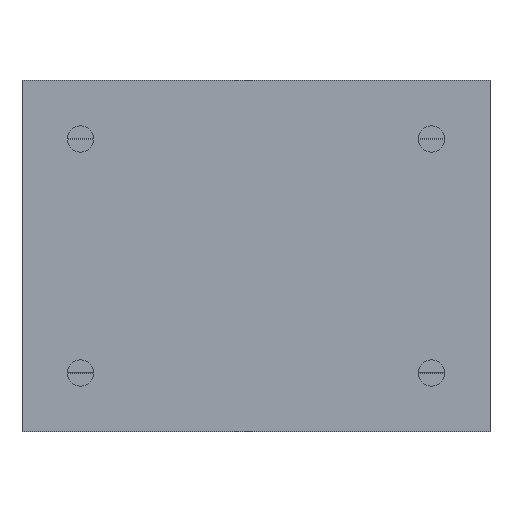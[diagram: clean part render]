
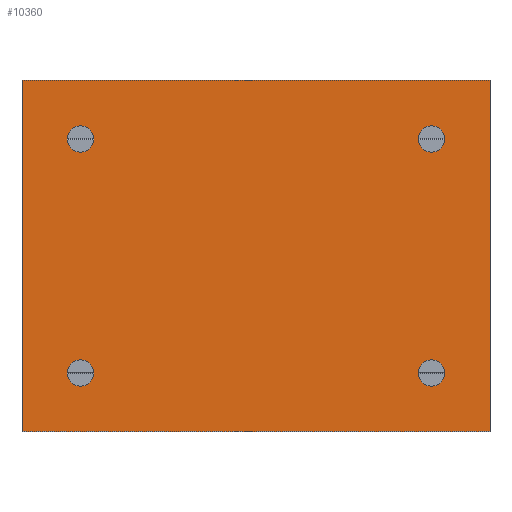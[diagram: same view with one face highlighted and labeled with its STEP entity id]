
A CAD part, front view. The second image highlights one B-rep face of the part: STEP entity #10360.
In plain terms, the highlighted planar face has unit normal (0, -1, 0).
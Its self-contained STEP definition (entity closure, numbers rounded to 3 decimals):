
#360=CIRCLE('',#10966,2.25);
#361=CIRCLE('',#10967,2.25);
#362=CIRCLE('',#10968,2.25);
#363=CIRCLE('',#10969,2.25);
#1064=ORIENTED_EDGE('',*,*,#4265,.T.);
#1065=ORIENTED_EDGE('',*,*,#4266,.F.);
#1066=ORIENTED_EDGE('',*,*,#4267,.F.);
#1067=ORIENTED_EDGE('',*,*,#4268,.F.);
#1068=ORIENTED_EDGE('',*,*,#4218,.T.);
#1069=ORIENTED_EDGE('',*,*,#4269,.F.);
#1070=ORIENTED_EDGE('',*,*,#4270,.F.);
#1071=ORIENTED_EDGE('',*,*,#4263,.T.);
#4218=EDGE_CURVE('',#5825,#5824,#6900,.T.);
#4263=EDGE_CURVE('',#5860,#5825,#6943,.T.);
#4265=EDGE_CURVE('',#5861,#5861,#360,.T.);
#4266=EDGE_CURVE('',#5862,#5862,#361,.T.);
#4267=EDGE_CURVE('',#5863,#5863,#362,.T.);
#4268=EDGE_CURVE('',#5864,#5864,#363,.T.);
#4269=EDGE_CURVE('',#5865,#5824,#6945,.T.);
#4270=EDGE_CURVE('',#5860,#5865,#6946,.T.);
#5824=VERTEX_POINT('',#15606);
#5825=VERTEX_POINT('',#15608);
#5860=VERTEX_POINT('',#15695);
#5861=VERTEX_POINT('',#15699);
#5862=VERTEX_POINT('',#15701);
#5863=VERTEX_POINT('',#15703);
#5864=VERTEX_POINT('',#15705);
#5865=VERTEX_POINT('',#15707);
#6900=LINE('',#15607,#7870);
#6943=LINE('',#15694,#7913);
#6945=LINE('',#15706,#7915);
#6946=LINE('',#15708,#7916);
#7870=VECTOR('',#12197,1000.);
#7913=VECTOR('',#12258,1000.);
#7915=VECTOR('',#12270,1000.);
#7916=VECTOR('',#12271,1000.);
#8825=EDGE_LOOP('',(#1064));
#8826=EDGE_LOOP('',(#1065));
#8827=EDGE_LOOP('',(#1066));
#8828=EDGE_LOOP('',(#1067));
#8829=EDGE_LOOP('',(#1068,#1069,#1070,#1071));
#9461=FACE_BOUND('',#8825,.T.);
#9462=FACE_BOUND('',#8826,.T.);
#9463=FACE_BOUND('',#8827,.T.);
#9464=FACE_BOUND('',#8828,.T.);
#9465=FACE_BOUND('',#8829,.T.);
#10095=PLANE('',#10965);
#10360=ADVANCED_FACE('',(#9461,#9462,#9463,#9464,#9465),#10095,.F.);
#10965=AXIS2_PLACEMENT_3D('',#15697,#12260,#12261);
#10966=AXIS2_PLACEMENT_3D('',#15698,#12262,#12263);
#10967=AXIS2_PLACEMENT_3D('',#15700,#12264,#12265);
#10968=AXIS2_PLACEMENT_3D('',#15702,#12266,#12267);
#10969=AXIS2_PLACEMENT_3D('',#15704,#12268,#12269);
#12197=DIRECTION('',(0.,0.,-1.));
#12258=DIRECTION('',(-1.,0.,0.));
#12260=DIRECTION('',(0.,1.,0.));
#12261=DIRECTION('',(0.,0.,1.));
#12262=DIRECTION('',(0.,1.,0.));
#12263=DIRECTION('',(0.,0.,1.));
#12264=DIRECTION('',(0.,-1.,0.));
#12265=DIRECTION('',(0.,0.,-1.));
#12266=DIRECTION('',(0.,-1.,0.));
#12267=DIRECTION('',(0.,0.,-1.));
#12268=DIRECTION('',(0.,-1.,0.));
#12269=DIRECTION('',(0.,0.,-1.));
#12270=DIRECTION('',(-1.,0.,0.));
#12271=DIRECTION('',(0.,0.,-1.));
#15606=CARTESIAN_POINT('',(0.,0.,-30.));
#15607=CARTESIAN_POINT('',(0.,0.,30.));
#15608=CARTESIAN_POINT('',(0.,0.,30.));
#15694=CARTESIAN_POINT('',(80.,0.,30.));
#15695=CARTESIAN_POINT('',(80.,0.,30.));
#15697=CARTESIAN_POINT('',(80.,0.,30.));
#15698=CARTESIAN_POINT('',(70.,0.,20.));
#15699=CARTESIAN_POINT('',(70.,0.,22.25));
#15700=CARTESIAN_POINT('',(70.,0.,-20.));
#15701=CARTESIAN_POINT('',(70.,0.,-22.25));
#15702=CARTESIAN_POINT('',(10.,0.,-20.));
#15703=CARTESIAN_POINT('',(10.,0.,-22.25));
#15704=CARTESIAN_POINT('',(10.,0.,20.));
#15705=CARTESIAN_POINT('',(10.,0.,17.75));
#15706=CARTESIAN_POINT('',(80.,0.,-30.));
#15707=CARTESIAN_POINT('',(80.,0.,-30.));
#15708=CARTESIAN_POINT('',(80.,0.,30.));
